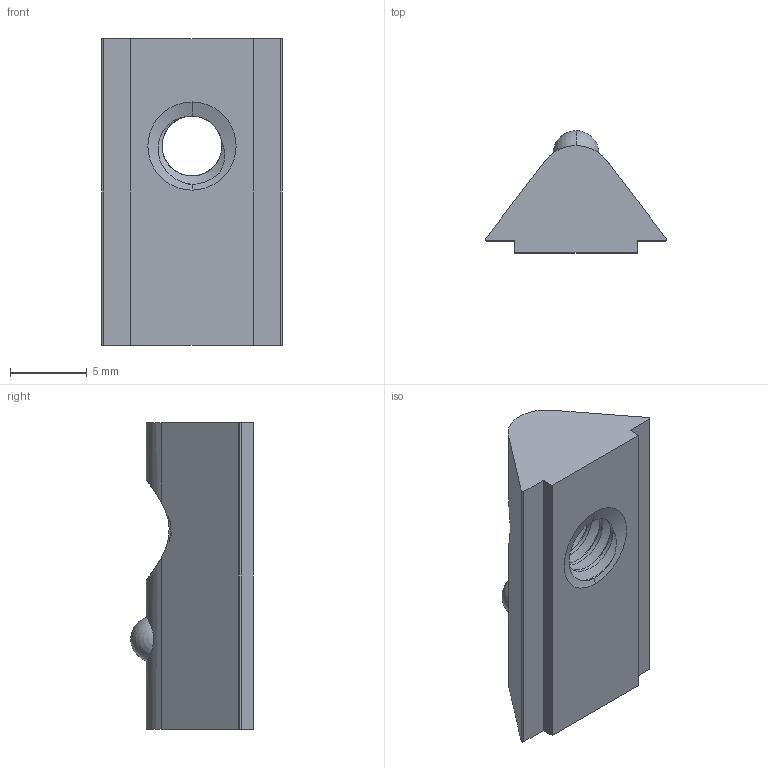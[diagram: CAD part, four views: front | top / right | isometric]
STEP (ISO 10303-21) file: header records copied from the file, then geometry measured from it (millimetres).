
FILE_DESCRIPTION (( 'STEP AP214' ), '1' );
FILE_NAME ('8-4-M6.30.STEP', '2019-01-13T09:48:42', ( '' ), ( '' ), 'SwSTEP 2.0', 'SolidWorks 2018', '' );
FILE_SCHEMA (( 'AUTOMOTIVE_DESIGN' ));
Length unit declared in the file: millimetre
Products named in the file (3): Moer 8-4-30-M6; Bal 6-2; 8-4-M6.30
Assembly tree (2 placements, depth 2):
  8-4-M6.30
    Moer 8-4-30-M6
    Bal 6-2
Bounding box: 11.79 x 8 x 20 mm (x, y, z)
Volume: 906.5 mm3; surface area: 853.5 mm2
Topology: 2 solids, 2 shells, 46 faces, 131 edges, 85 vertices
Faces by surface type: cylinder 21, plane 10, cone 7, bspline 4, sphere 4
Entity records: 3050 total; most frequent: CARTESIAN_POINT 1917, ORIENTED_EDGE 250, DIRECTION 183, EDGE_CURVE 125, VERTEX_POINT 83, AXIS2_PLACEMENT_3D 68, EDGE_LOOP 48, LINE 47
